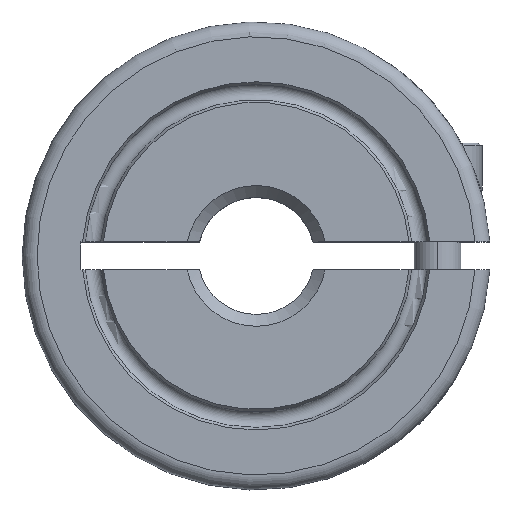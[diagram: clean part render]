
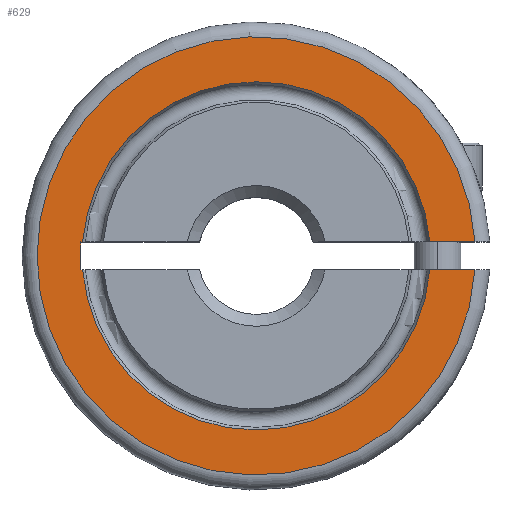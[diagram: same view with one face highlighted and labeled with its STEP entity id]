
A CAD part, top view. The second image highlights one B-rep face of the part: STEP entity #629.
In plain terms, the highlighted planar face has unit normal (0, 0, 1).
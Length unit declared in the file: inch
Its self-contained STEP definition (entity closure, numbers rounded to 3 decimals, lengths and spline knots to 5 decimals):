
#36 = DIRECTION ( 'NONE',  ( 1., 0., 0. ) ) ;
#54 = CARTESIAN_POINT ( 'NONE',  ( -0.29528, -0.0235, 0.10827 ) ) ;
#58 = CARTESIAN_POINT ( 'NONE',  ( 0., 0., 0.10827 ) ) ;
#85 = ORIENTED_EDGE ( 'NONE', *, *, #502, .F. ) ;
#94 = AXIS2_PLACEMENT_3D ( 'NONE', #324, #1463, #1301 ) ;
#189 = DIRECTION ( 'NONE',  ( 1., 0., 0. ) ) ;
#222 = ORIENTED_EDGE ( 'NONE', *, *, #1618, .F. ) ;
#227 = EDGE_CURVE ( 'NONE', #443, #492, #1629, .T. ) ;
#238 = DIRECTION ( 'NONE',  ( 0., 0., 1. ) ) ;
#252 = EDGE_CURVE ( 'NONE', #1452, #290, #1338, .T. ) ;
#290 = VERTEX_POINT ( 'NONE', #630 ) ;
#324 = CARTESIAN_POINT ( 'NONE',  ( 0., 0., 0.10827 ) ) ;
#375 = PLANE ( 'NONE',  #1116 ) ;
#421 = AXIS2_PLACEMENT_3D ( 'NONE', #1135, #851, #1281 ) ;
#443 = VERTEX_POINT ( 'NONE', #1003 ) ;
#453 = CARTESIAN_POINT ( 'NONE',  ( 0.3937, 0.0235, 0.10827 ) ) ;
#457 = VERTEX_POINT ( 'NONE', #1430 ) ;
#460 = CIRCLE ( 'NONE', #1329, 0.29291 ) ;
#492 = VERTEX_POINT ( 'NONE', #54 ) ;
#502 = EDGE_CURVE ( 'NONE', #1712, #1424, #460, .T. ) ;
#528 = DIRECTION ( 'NONE',  ( 1., 0., 0. ) ) ;
#558 = EDGE_LOOP ( 'NONE', ( #1688, #565, #1068, #85, #222, #1527, #688, #993 ) ) ;
#565 = ORIENTED_EDGE ( 'NONE', *, *, #1047, .T. ) ;
#566 = VECTOR ( 'NONE', #528, 39.37008 ) ;
#608 = DIRECTION ( 'NONE',  ( -1., 0., 0. ) ) ;
#629 = ADVANCED_FACE ( 'NONE', ( #765 ), #375, .T. ) ;
#630 = CARTESIAN_POINT ( 'NONE',  ( 0.29197, 0.0235, 0.10827 ) ) ;
#657 = CARTESIAN_POINT ( 'NONE',  ( -0.29197, -0.0235, 0.10827 ) ) ;
#688 = ORIENTED_EDGE ( 'NONE', *, *, #1220, .F. ) ;
#722 = VECTOR ( 'NONE', #36, 39.37008 ) ;
#730 = CARTESIAN_POINT ( 'NONE',  ( -0.29528, 0.0235, 0.10827 ) ) ;
#741 = EDGE_CURVE ( 'NONE', #1424, #1753, #1112, .T. ) ;
#765 = FACE_OUTER_BOUND ( 'NONE', #558, .T. ) ;
#807 = CARTESIAN_POINT ( 'NONE',  ( 0., 0., 0.10827 ) ) ;
#851 = DIRECTION ( 'NONE',  ( 0., 0., 1. ) ) ;
#882 = CIRCLE ( 'NONE', #421, 0.3687 ) ;
#904 = CARTESIAN_POINT ( 'NONE',  ( 0.29197, -0.0235, 0.10827 ) ) ;
#986 = LINE ( 'NONE', #1807, #566 ) ;
#993 = ORIENTED_EDGE ( 'NONE', *, *, #1201, .F. ) ;
#998 = CIRCLE ( 'NONE', #94, 0.29291 ) ;
#1003 = CARTESIAN_POINT ( 'NONE',  ( -0.29528, 0.0235, 0.10827 ) ) ;
#1047 = EDGE_CURVE ( 'NONE', #1452, #1753, #882, .T. ) ;
#1048 = DIRECTION ( 'NONE',  ( -1., 0., 0. ) ) ;
#1068 = ORIENTED_EDGE ( 'NONE', *, *, #741, .F. ) ;
#1112 = LINE ( 'NONE', #1327, #722 ) ;
#1116 = AXIS2_PLACEMENT_3D ( 'NONE', #807, #238, #1231 ) ;
#1135 = CARTESIAN_POINT ( 'NONE',  ( 0., 0., 0.10827 ) ) ;
#1178 = DIRECTION ( 'NONE',  ( 0., -1., 0. ) ) ;
#1201 = EDGE_CURVE ( 'NONE', #290, #457, #998, .T. ) ;
#1205 = CARTESIAN_POINT ( 'NONE',  ( 0.36795, 0.0235, 0.10827 ) ) ;
#1213 = DIRECTION ( 'NONE',  ( 0., 0., 1. ) ) ;
#1220 = EDGE_CURVE ( 'NONE', #457, #443, #1270, .T. ) ;
#1231 = DIRECTION ( 'NONE',  ( 1., 0., 0. ) ) ;
#1270 = LINE ( 'NONE', #453, #1341 ) ;
#1281 = DIRECTION ( 'NONE',  ( 1., 0., 0. ) ) ;
#1301 = DIRECTION ( 'NONE',  ( 1., 0., 0. ) ) ;
#1327 = CARTESIAN_POINT ( 'NONE',  ( 0.3937, -0.0235, 0.10827 ) ) ;
#1329 = AXIS2_PLACEMENT_3D ( 'NONE', #58, #1213, #189 ) ;
#1338 = LINE ( 'NONE', #1488, #1417 ) ;
#1341 = VECTOR ( 'NONE', #608, 39.37008 ) ;
#1417 = VECTOR ( 'NONE', #1048, 39.37008 ) ;
#1424 = VERTEX_POINT ( 'NONE', #904 ) ;
#1430 = CARTESIAN_POINT ( 'NONE',  ( -0.29197, 0.0235, 0.10827 ) ) ;
#1452 = VERTEX_POINT ( 'NONE', #1205 ) ;
#1463 = DIRECTION ( 'NONE',  ( 0., 0., 1. ) ) ;
#1488 = CARTESIAN_POINT ( 'NONE',  ( 0.3937, 0.0235, 0.10827 ) ) ;
#1527 = ORIENTED_EDGE ( 'NONE', *, *, #227, .F. ) ;
#1618 = EDGE_CURVE ( 'NONE', #492, #1712, #986, .T. ) ;
#1629 = LINE ( 'NONE', #730, #1787 ) ;
#1672 = CARTESIAN_POINT ( 'NONE',  ( 0.36795, -0.0235, 0.10827 ) ) ;
#1688 = ORIENTED_EDGE ( 'NONE', *, *, #252, .F. ) ;
#1712 = VERTEX_POINT ( 'NONE', #657 ) ;
#1753 = VERTEX_POINT ( 'NONE', #1672 ) ;
#1787 = VECTOR ( 'NONE', #1178, 39.37008 ) ;
#1807 = CARTESIAN_POINT ( 'NONE',  ( 0.3937, -0.0235, 0.10827 ) ) ;
